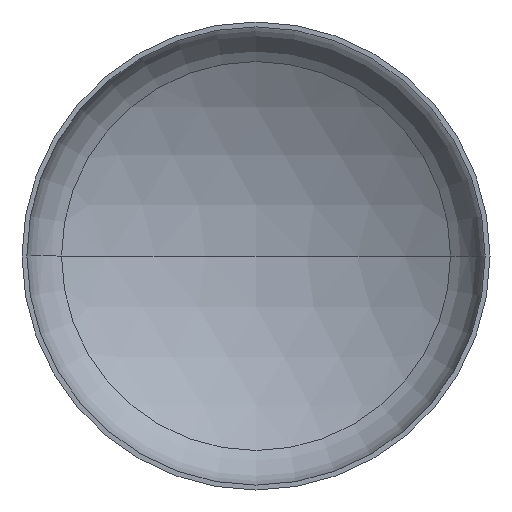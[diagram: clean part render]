
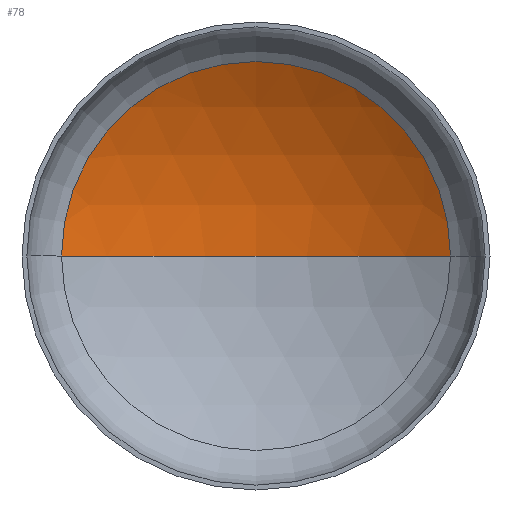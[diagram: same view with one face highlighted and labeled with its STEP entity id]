
A CAD part, front view. The second image highlights one B-rep face of the part: STEP entity #78.
In plain terms, the highlighted spherical face has radius 6000 mm.
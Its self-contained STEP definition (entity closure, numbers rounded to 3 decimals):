
#8 = EDGE_LOOP ( 'NONE', ( #146, #92, #61 ) ) ;
#36 = VERTEX_POINT ( 'NONE', #291 ) ;
#47 = DIRECTION ( 'NONE',  ( 1., 0., 0. ) ) ;
#54 = DIRECTION ( 'NONE',  ( 0., 0., 1. ) ) ;
#55 = AXIS2_PLACEMENT_3D ( 'NONE', #308, #54, #47 ) ;
#56 = AXIS2_PLACEMENT_3D ( 'NONE', #206, #208, #210 ) ;
#57 = AXIS2_PLACEMENT_3D ( 'NONE', #230, #232, #218 ) ;
#61 = ORIENTED_EDGE ( 'NONE', *, *, #112, .T. ) ;
#78 = ADVANCED_FACE ( 'NONE', ( #248 ), #311, .F. ) ;
#83 = AXIS2_PLACEMENT_3D ( 'NONE', #297, #235, #258 ) ;
#92 = ORIENTED_EDGE ( 'NONE', *, *, #114, .T. ) ;
#104 = VERTEX_POINT ( 'NONE', #331 ) ;
#112 = EDGE_CURVE ( 'NONE', #185, #36, #358, .T. ) ;
#114 = EDGE_CURVE ( 'NONE', #104, #185, #293, .T. ) ;
#119 = EDGE_CURVE ( 'NONE', #104, #36, #160, .T. ) ;
#146 = ORIENTED_EDGE ( 'NONE', *, *, #119, .F. ) ;
#160 = CIRCLE ( 'NONE', #55, 6000. ) ;
#185 = VERTEX_POINT ( 'NONE', #328 ) ;
#206 = CARTESIAN_POINT ( 'NONE',  ( 0., -4019.896, 0. ) ) ;
#208 = DIRECTION ( 'NONE',  ( 0., 0., -1. ) ) ;
#210 = DIRECTION ( 'NONE',  ( -1., 0., 0. ) ) ;
#218 = DIRECTION ( 'NONE',  ( 1., 0., 0. ) ) ;
#230 = CARTESIAN_POINT ( 'NONE',  ( 0., 1106.91, 0. ) ) ;
#232 = DIRECTION ( 'NONE',  ( 0., -1., 0. ) ) ;
#235 = DIRECTION ( 'NONE',  ( 0., 0., -1. ) ) ;
#248 = FACE_OUTER_BOUND ( 'NONE', #8, .T. ) ;
#258 = DIRECTION ( 'NONE',  ( -1., 0., 0. ) ) ;
#291 = CARTESIAN_POINT ( 'NONE',  ( -3117.028, 1106.91, 0. ) ) ;
#293 = CIRCLE ( 'NONE', #56, 6000. ) ;
#297 = CARTESIAN_POINT ( 'NONE',  ( 0., -4019.896, 0. ) ) ;
#308 = CARTESIAN_POINT ( 'NONE',  ( 0., -4019.896, 0. ) ) ;
#311 = SPHERICAL_SURFACE ( 'NONE', #83, 6000. ) ;
#328 = CARTESIAN_POINT ( 'NONE',  ( 3117.028, 1106.91, 0. ) ) ;
#331 = CARTESIAN_POINT ( 'NONE',  ( 0., 1980.104, 0. ) ) ;
#358 = CIRCLE ( 'NONE', #57, 3117.028 ) ;
